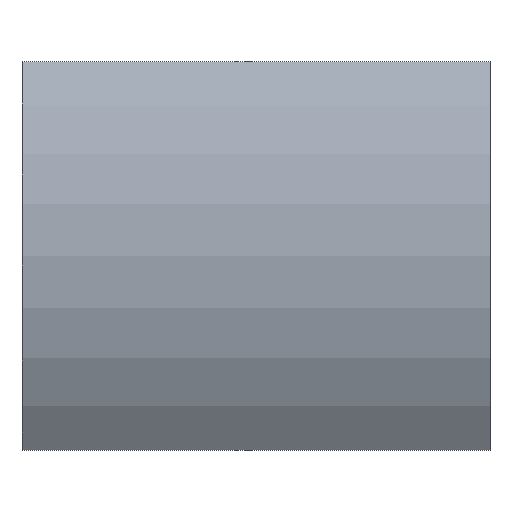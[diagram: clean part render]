
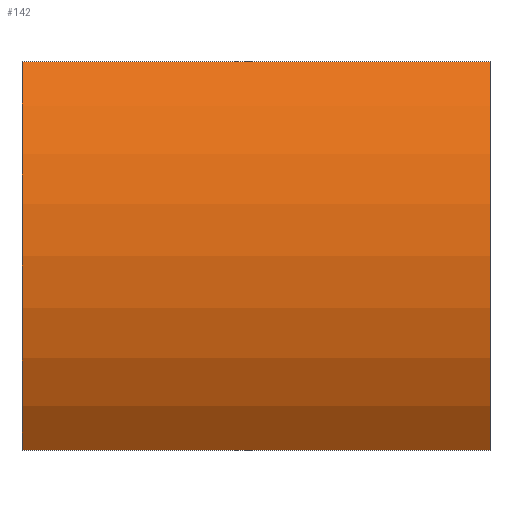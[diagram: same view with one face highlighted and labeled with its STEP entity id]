
A CAD part, top view. The second image highlights one B-rep face of the part: STEP entity #142.
In plain terms, the highlighted cylindrical face has radius 18.9 mm (diameter 37.8 mm), a partial arc.
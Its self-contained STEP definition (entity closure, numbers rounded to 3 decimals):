
#24 = VERTEX_POINT('',#25);
#25 = CARTESIAN_POINT('',(160.7,-11.115,15.286));
#32 = PLANE('',#33);
#33 = AXIS2_PLACEMENT_3D('',#34,#35,#36);
#34 = CARTESIAN_POINT('',(160.7,-11.115,14.2));
#35 = DIRECTION('',(1.,0.,-0.));
#36 = DIRECTION('',(0.,0.,1.));
#44 = PLANE('',#45);
#45 = AXIS2_PLACEMENT_3D('',#46,#47,#48);
#46 = CARTESIAN_POINT('',(160.7,-11.115,14.2));
#47 = DIRECTION('',(-0.,1.,0.));
#48 = DIRECTION('',(0.,0.,1.));
#85 = VERTEX_POINT('',#86);
#86 = CARTESIAN_POINT('',(160.7,11.115,15.286));
#100 = PLANE('',#101);
#101 = AXIS2_PLACEMENT_3D('',#102,#103,#104);
#102 = CARTESIAN_POINT('',(160.7,11.115,14.2));
#103 = DIRECTION('',(-0.,1.,0.));
#104 = DIRECTION('',(0.,0.,1.));
#112 = EDGE_CURVE('',#24,#85,#113,.T.);
#113 = SURFACE_CURVE('',#114,(#119,#130),.PCURVE_S1.);
#114 = CIRCLE('',#115,18.9);
#115 = AXIS2_PLACEMENT_3D('',#116,#117,#118);
#116 = CARTESIAN_POINT('',(160.7,0.,0.));
#117 = DIRECTION('',(-1.,0.,0.));
#118 = DIRECTION('',(0.,-0.588,0.809));
#119 = PCURVE('',#32,#120);
#120 = DEFINITIONAL_REPRESENTATION('',(#121),#129);
#121 = ( BOUNDED_CURVE() B_SPLINE_CURVE(2,(#122,#123,#124,#125,#126,#127
,#128),.UNSPECIFIED.,.T.,.F.) B_SPLINE_CURVE_WITH_KNOTS((1,2,2,2,2,1),(
    -2.094,0.,2.094,4.189,6.283,
8.378),.UNSPECIFIED.) CURVE() GEOMETRIC_REPRESENTATION_ITEM() 
RATIONAL_B_SPLINE_CURVE((1.,0.5,1.,0.5,1.,0.5,1.)) REPRESENTATION_ITEM(
  '') );
#122 = CARTESIAN_POINT('',(1.086,0.));
#123 = CARTESIAN_POINT('',(20.338,-26.476));
#124 = CARTESIAN_POINT('',(-12.217,-29.911));
#125 = CARTESIAN_POINT('',(-44.772,-33.346));
#126 = CARTESIAN_POINT('',(-31.469,-3.435));
#127 = CARTESIAN_POINT('',(-18.167,26.476));
#128 = CARTESIAN_POINT('',(1.086,0.));
#129 = ( GEOMETRIC_REPRESENTATION_CONTEXT(2) 
PARAMETRIC_REPRESENTATION_CONTEXT() REPRESENTATION_CONTEXT('2D SPACE',''
  ) );
#130 = PCURVE('',#131,#136);
#131 = CYLINDRICAL_SURFACE('',#132,18.9);
#132 = AXIS2_PLACEMENT_3D('',#133,#134,#135);
#133 = CARTESIAN_POINT('',(143.5,0.,0.));
#134 = DIRECTION('',(1.,0.,0.));
#135 = DIRECTION('',(-0.,0.,1.));
#136 = DEFINITIONAL_REPRESENTATION('',(#137),#141);
#137 = LINE('',#138,#139);
#138 = CARTESIAN_POINT('',(6.912,17.2));
#139 = VECTOR('',#140,1.);
#140 = DIRECTION('',(-1.,-0.));
#141 = ( GEOMETRIC_REPRESENTATION_CONTEXT(2) 
PARAMETRIC_REPRESENTATION_CONTEXT() REPRESENTATION_CONTEXT('2D SPACE',''
  ) );
#142 = ADVANCED_FACE('',(#143),#131,.T.);
#143 = FACE_BOUND('',#144,.T.);
#144 = EDGE_LOOP('',(#145,#180,#199,#200));
#145 = ORIENTED_EDGE('',*,*,#146,.T.);
#146 = EDGE_CURVE('',#147,#149,#151,.T.);
#147 = VERTEX_POINT('',#148);
#148 = CARTESIAN_POINT('',(187.5,-11.115,15.286));
#149 = VERTEX_POINT('',#150);
#150 = CARTESIAN_POINT('',(187.5,11.115,15.286));
#151 = SURFACE_CURVE('',#152,(#157,#164),.PCURVE_S1.);
#152 = CIRCLE('',#153,18.9);
#153 = AXIS2_PLACEMENT_3D('',#154,#155,#156);
#154 = CARTESIAN_POINT('',(187.5,0.,0.));
#155 = DIRECTION('',(-1.,0.,0.));
#156 = DIRECTION('',(0.,-0.588,0.809));
#157 = PCURVE('',#131,#158);
#158 = DEFINITIONAL_REPRESENTATION('',(#159),#163);
#159 = LINE('',#160,#161);
#160 = CARTESIAN_POINT('',(6.912,44.));
#161 = VECTOR('',#162,1.);
#162 = DIRECTION('',(-1.,-0.));
#163 = ( GEOMETRIC_REPRESENTATION_CONTEXT(2) 
PARAMETRIC_REPRESENTATION_CONTEXT() REPRESENTATION_CONTEXT('2D SPACE',''
  ) );
#164 = PCURVE('',#165,#170);
#165 = PLANE('',#166);
#166 = AXIS2_PLACEMENT_3D('',#167,#168,#169);
#167 = CARTESIAN_POINT('',(187.5,-11.115,14.2));
#168 = DIRECTION('',(1.,0.,-0.));
#169 = DIRECTION('',(0.,0.,1.));
#170 = DEFINITIONAL_REPRESENTATION('',(#171),#179);
#171 = ( BOUNDED_CURVE() B_SPLINE_CURVE(2,(#172,#173,#174,#175,#176,#177
,#178),.UNSPECIFIED.,.T.,.F.) B_SPLINE_CURVE_WITH_KNOTS((1,2,2,2,2,1),(
    -2.094,0.,2.094,4.189,6.283,
8.378),.UNSPECIFIED.) CURVE() GEOMETRIC_REPRESENTATION_ITEM() 
RATIONAL_B_SPLINE_CURVE((1.,0.5,1.,0.5,1.,0.5,1.)) REPRESENTATION_ITEM(
  '') );
#172 = CARTESIAN_POINT('',(1.086,0.));
#173 = CARTESIAN_POINT('',(20.338,-26.476));
#174 = CARTESIAN_POINT('',(-12.217,-29.911));
#175 = CARTESIAN_POINT('',(-44.772,-33.346));
#176 = CARTESIAN_POINT('',(-31.469,-3.435));
#177 = CARTESIAN_POINT('',(-18.167,26.476));
#178 = CARTESIAN_POINT('',(1.086,0.));
#179 = ( GEOMETRIC_REPRESENTATION_CONTEXT(2) 
PARAMETRIC_REPRESENTATION_CONTEXT() REPRESENTATION_CONTEXT('2D SPACE',''
  ) );
#180 = ORIENTED_EDGE('',*,*,#181,.F.);
#181 = EDGE_CURVE('',#85,#149,#182,.T.);
#182 = SURFACE_CURVE('',#183,(#187,#193),.PCURVE_S1.);
#183 = LINE('',#184,#185);
#184 = CARTESIAN_POINT('',(143.5,11.115,15.286));
#185 = VECTOR('',#186,1.);
#186 = DIRECTION('',(1.,0.,0.));
#187 = PCURVE('',#131,#188);
#188 = DEFINITIONAL_REPRESENTATION('',(#189),#192);
#189 = B_SPLINE_CURVE_WITH_KNOTS('',1,(#190,#191),.UNSPECIFIED.,.F.,.F.,
  (2,2),(17.2,44.),.PIECEWISE_BEZIER_KNOTS.);
#190 = CARTESIAN_POINT('',(5.654,17.2));
#191 = CARTESIAN_POINT('',(5.654,44.));
#192 = ( GEOMETRIC_REPRESENTATION_CONTEXT(2) 
PARAMETRIC_REPRESENTATION_CONTEXT() REPRESENTATION_CONTEXT('2D SPACE',''
  ) );
#193 = PCURVE('',#100,#194);
#194 = DEFINITIONAL_REPRESENTATION('',(#195),#198);
#195 = B_SPLINE_CURVE_WITH_KNOTS('',1,(#196,#197),.UNSPECIFIED.,.F.,.F.,
  (2,2),(14.52,46.68),.PIECEWISE_BEZIER_KNOTS.);
#196 = CARTESIAN_POINT('',(1.086,-2.68));
#197 = CARTESIAN_POINT('',(1.086,29.48));
#198 = ( GEOMETRIC_REPRESENTATION_CONTEXT(2) 
PARAMETRIC_REPRESENTATION_CONTEXT() REPRESENTATION_CONTEXT('2D SPACE',''
  ) );
#199 = ORIENTED_EDGE('',*,*,#112,.F.);
#200 = ORIENTED_EDGE('',*,*,#201,.T.);
#201 = EDGE_CURVE('',#24,#147,#202,.T.);
#202 = SURFACE_CURVE('',#203,(#207,#213),.PCURVE_S1.);
#203 = LINE('',#204,#205);
#204 = CARTESIAN_POINT('',(143.5,-11.115,15.286));
#205 = VECTOR('',#206,1.);
#206 = DIRECTION('',(1.,0.,0.));
#207 = PCURVE('',#131,#208);
#208 = DEFINITIONAL_REPRESENTATION('',(#209),#212);
#209 = B_SPLINE_CURVE_WITH_KNOTS('',1,(#210,#211),.UNSPECIFIED.,.F.,.F.,
  (2,2),(17.2,44.),.PIECEWISE_BEZIER_KNOTS.);
#210 = CARTESIAN_POINT('',(6.912,17.2));
#211 = CARTESIAN_POINT('',(6.912,44.));
#212 = ( GEOMETRIC_REPRESENTATION_CONTEXT(2) 
PARAMETRIC_REPRESENTATION_CONTEXT() REPRESENTATION_CONTEXT('2D SPACE',''
  ) );
#213 = PCURVE('',#44,#214);
#214 = DEFINITIONAL_REPRESENTATION('',(#215),#218);
#215 = B_SPLINE_CURVE_WITH_KNOTS('',1,(#216,#217),.UNSPECIFIED.,.F.,.F.,
  (2,2),(14.52,46.68),.PIECEWISE_BEZIER_KNOTS.);
#216 = CARTESIAN_POINT('',(1.086,-2.68));
#217 = CARTESIAN_POINT('',(1.086,29.48));
#218 = ( GEOMETRIC_REPRESENTATION_CONTEXT(2) 
PARAMETRIC_REPRESENTATION_CONTEXT() REPRESENTATION_CONTEXT('2D SPACE',''
  ) );
